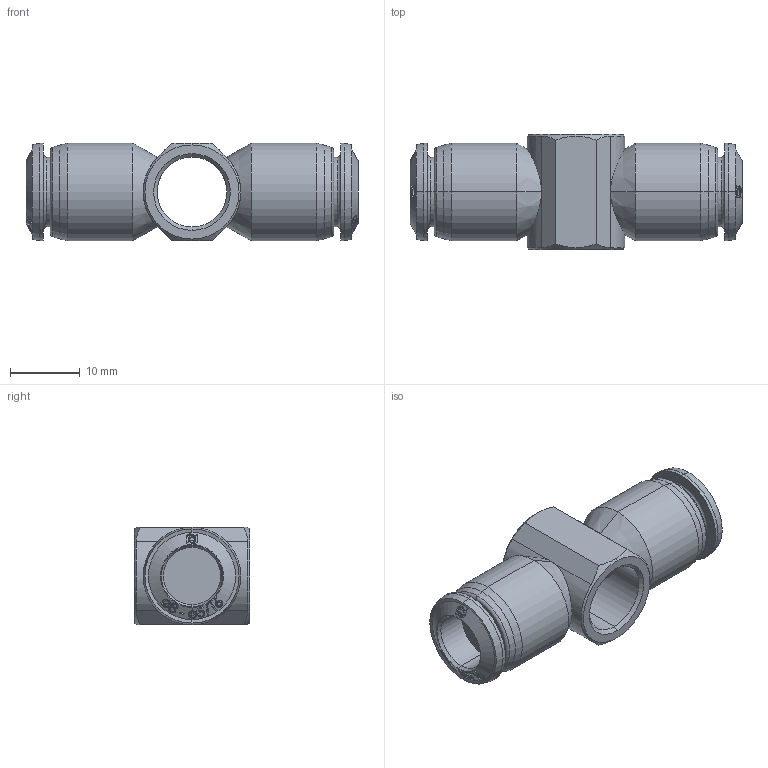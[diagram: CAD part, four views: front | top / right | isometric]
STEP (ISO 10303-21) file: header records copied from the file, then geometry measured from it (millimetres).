
FILE_DESCRIPTION (( 'STEP AP214' ), '1' );
FILE_NAME ('5551000012.step', '2012-10-02T17:51:44', ( '' ), ( '' ), 'SwSTEP 2.0', 'SolidWorks 2012', '' );
FILE_SCHEMA (( 'AUTOMOTIVE_DESIGN' ));
Length unit declared in the file: millimetre
Products named in the file (1): 5551000012
Bounding box: 47.6 x 16.5 x 14 mm (x, y, z)
Volume: 5644.4 mm3; surface area: 3604.5 mm2
Topology: 1 solids, 1 shells, 362 faces, 930 edges, 604 vertices
Faces by surface type: bspline 222, cone 82, cylinder 26, plane 20, torus 12
Entity records: 26522 total; most frequent: CARTESIAN_POINT 15735, ORIENTED_EDGE 1860, EDGE_CURVE 930, B_SPLINE_CURVE_WITH_KNOTS 734, VERTEX_POINT 604, DIRECTION 586, EDGE_LOOP 398, UNCERTAINTY_MEASURE_WITH_UNIT 365
